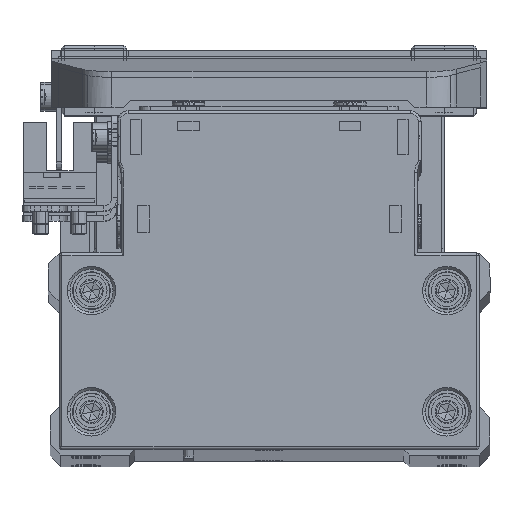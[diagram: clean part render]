
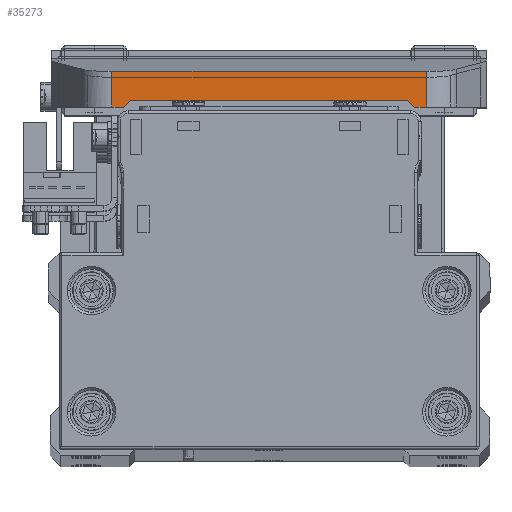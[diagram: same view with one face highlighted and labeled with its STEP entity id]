
A CAD part, top view. The second image highlights one B-rep face of the part: STEP entity #35273.
In plain terms, the highlighted planar face has unit normal (0, 0, 1) as drawn and (-1, 0, 0) by its records, which use the part's own axes.
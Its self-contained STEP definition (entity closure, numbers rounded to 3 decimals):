
#312 = VERTEX_POINT ( 'NONE', #17804 ) ;
#2200 = CARTESIAN_POINT ( 'NONE',  ( -67.5, 10.6, -27. ) ) ;
#3146 = DIRECTION ( 'NONE',  ( 1., 0., 0. ) ) ;
#3450 = EDGE_CURVE ( 'NONE', #3966, #25707, #29673, .T. ) ;
#3681 = DIRECTION ( 'NONE',  ( 0., -1., 0. ) ) ;
#3966 = VERTEX_POINT ( 'NONE', #6677 ) ;
#4150 = EDGE_CURVE ( 'NONE', #312, #24328, #13872, .T. ) ;
#5521 = VERTEX_POINT ( 'NONE', #11266 ) ;
#6174 = FACE_OUTER_BOUND ( 'NONE', #9425, .T. ) ;
#6677 = CARTESIAN_POINT ( 'NONE',  ( -67.5, 9.3, -25.5 ) ) ;
#6996 = LINE ( 'NONE', #19220, #26859 ) ;
#7836 = CARTESIAN_POINT ( 'NONE',  ( -67.5, 4., 40.4 ) ) ;
#8829 = DIRECTION ( 'NONE',  ( 0., 0., -1. ) ) ;
#9425 = EDGE_LOOP ( 'NONE', ( #35548, #21282, #18332, #37090, #12224, #22307, #17912, #25495 ) ) ;
#9664 = LINE ( 'NONE', #21898, #18989 ) ;
#11266 = CARTESIAN_POINT ( 'NONE',  ( -67.5, 10.6, 29.225 ) ) ;
#12012 = DIRECTION ( 'NONE',  ( 0., 1., 0. ) ) ;
#12224 = ORIENTED_EDGE ( 'NONE', *, *, #14124, .F. ) ;
#12981 = EDGE_CURVE ( 'NONE', #31925, #5521, #27272, .T. ) ;
#13616 = CARTESIAN_POINT ( 'NONE',  ( -67.5, 4., -29.225 ) ) ;
#13872 = LINE ( 'NONE', #26109, #38473 ) ;
#14124 = EDGE_CURVE ( 'NONE', #31925, #15799, #35313, .T. ) ;
#14431 = DIRECTION ( 'NONE',  ( 0., 0.655, -0.756 ) ) ;
#14435 = CARTESIAN_POINT ( 'NONE',  ( -67.5, 10.6, -27. ) ) ;
#14546 = AXIS2_PLACEMENT_3D ( 'NONE', #30644, #3146, #15373 ) ;
#15373 = DIRECTION ( 'NONE',  ( 0., 0., -1. ) ) ;
#15799 = VERTEX_POINT ( 'NONE', #13616 ) ;
#16789 = VECTOR ( 'NONE', #12012, 1000. ) ;
#17804 = CARTESIAN_POINT ( 'NONE',  ( -67.5, 10.6, 27. ) ) ;
#17912 = ORIENTED_EDGE ( 'NONE', *, *, #23720, .T. ) ;
#18332 = ORIENTED_EDGE ( 'NONE', *, *, #19610, .T. ) ;
#18400 = PLANE ( 'NONE',  #14546 ) ;
#18922 = LINE ( 'NONE', #31167, #25648 ) ;
#18989 = VECTOR ( 'NONE', #34134, 1000. ) ;
#19220 = CARTESIAN_POINT ( 'NONE',  ( -67.5, 10.6, 40.4 ) ) ;
#19610 = EDGE_CURVE ( 'NONE', #25707, #31806, #9664, .T. ) ;
#19982 = EDGE_CURVE ( 'NONE', #24328, #3966, #24078, .T. ) ;
#20080 = DIRECTION ( 'NONE',  ( 0., 0., -1. ) ) ;
#21282 = ORIENTED_EDGE ( 'NONE', *, *, #3450, .T. ) ;
#21898 = CARTESIAN_POINT ( 'NONE',  ( -67.5, 10.6, 40.4 ) ) ;
#22307 = ORIENTED_EDGE ( 'NONE', *, *, #12981, .T. ) ;
#23392 = CARTESIAN_POINT ( 'NONE',  ( -67.5, 9.3, 25.5 ) ) ;
#23720 = EDGE_CURVE ( 'NONE', #5521, #312, #6996, .T. ) ;
#24078 = LINE ( 'NONE', #36309, #33111 ) ;
#24328 = VERTEX_POINT ( 'NONE', #23392 ) ;
#24945 = EDGE_CURVE ( 'NONE', #31806, #15799, #18922, .T. ) ;
#25495 = ORIENTED_EDGE ( 'NONE', *, *, #4150, .T. ) ;
#25648 = VECTOR ( 'NONE', #3681, 1000. ) ;
#25707 = VERTEX_POINT ( 'NONE', #14435 ) ;
#26109 = CARTESIAN_POINT ( 'NONE',  ( -67.5, 10.6, 27. ) ) ;
#26859 = VECTOR ( 'NONE', #31466, 1000. ) ;
#27125 = CARTESIAN_POINT ( 'NONE',  ( -67.5, 10.6, -29.225 ) ) ;
#27272 = LINE ( 'NONE', #39482, #16789 ) ;
#29673 = LINE ( 'NONE', #2200, #37788 ) ;
#30644 = CARTESIAN_POINT ( 'NONE',  ( -67.5, 10.6, 40.4 ) ) ;
#31167 = CARTESIAN_POINT ( 'NONE',  ( -67.5, 4., -29.225 ) ) ;
#31466 = DIRECTION ( 'NONE',  ( 0., 0., -1. ) ) ;
#31806 = VERTEX_POINT ( 'NONE', #27125 ) ;
#31925 = VERTEX_POINT ( 'NONE', #34112 ) ;
#32209 = VECTOR ( 'NONE', #20080, 1000. ) ;
#33111 = VECTOR ( 'NONE', #8829, 1000. ) ;
#34112 = CARTESIAN_POINT ( 'NONE',  ( -67.5, 4., 29.225 ) ) ;
#34134 = DIRECTION ( 'NONE',  ( 0., 0., -1. ) ) ;
#35273 = ADVANCED_FACE ( 'NONE', ( #6174 ), #18400, .F. ) ;
#35313 = LINE ( 'NONE', #7836, #32209 ) ;
#35548 = ORIENTED_EDGE ( 'NONE', *, *, #19982, .T. ) ;
#36309 = CARTESIAN_POINT ( 'NONE',  ( -67.5, 9.3, 25.5 ) ) ;
#37090 = ORIENTED_EDGE ( 'NONE', *, *, #24945, .T. ) ;
#37788 = VECTOR ( 'NONE', #14431, 1000. ) ;
#38328 = DIRECTION ( 'NONE',  ( 0., -0.655, -0.756 ) ) ;
#38473 = VECTOR ( 'NONE', #38328, 1000. ) ;
#39482 = CARTESIAN_POINT ( 'NONE',  ( -67.5, 10.6, 29.225 ) ) ;
